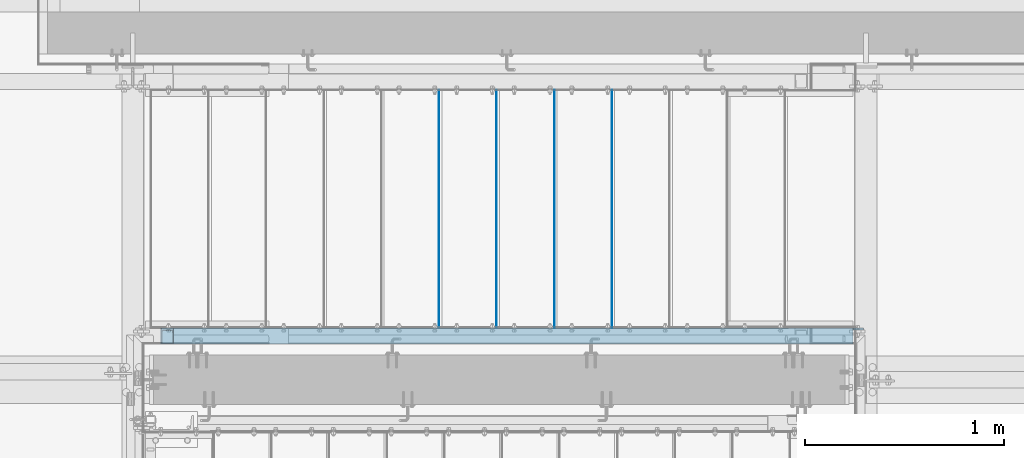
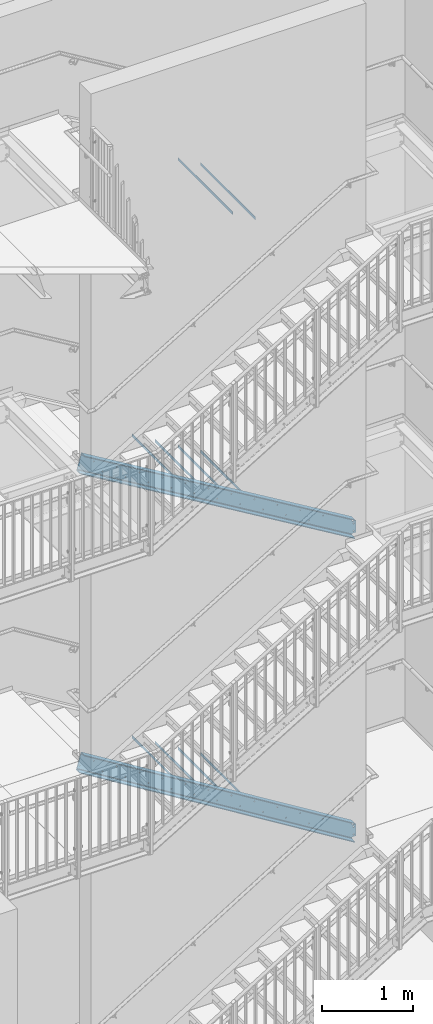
# One storey, part 36 of 410: 10 beams, 2 members, 50 openings.
"""IFC2X3 building model written with IfcOpenShell, lengths in millimetres."""

from ifc_helpers import new_model, entity, si_unit, converted_unit, point, frame, frame_2d, origin, origin_with_axes, origin_2d, origin_2d_with_axis, place, context, project, spatial, circle_curve, line_curve, trimmed, segment, composite_curve, rectangle, circle, u_section, outline, extrude, clip, halfspace, material, element, save


model = new_model("IFC2X3")

# Units and contexts
model_context = context("Model", 3, precision=1e-09, world=origin_with_axes())
ifc_project = project(units=[si_unit("LENGTHUNIT", "METRE", prefix="MILLI"), si_unit("AREAUNIT", "SQUARE_METRE"), si_unit("VOLUMEUNIT", "CUBIC_METRE"), converted_unit("PLANEANGLEUNIT", "DEGREE", entity("IfcPlaneAngleMeasure", 0.01745329), si_unit("PLANEANGLEUNIT", "RADIAN"), dimensions=[0, 0, 0, 0, 0, 0, 0])], contexts=[model_context])

# Site, building, storey
site_placement = place(None, origin_with_axes())
site = spatial("IfcSite", under=ifc_project, at=site_placement, Name="mKR Teilneubau & Sanierung BA1 - Ostfildern", CompositionType="ELEMENT")
building_placement = place(site_placement, origin_with_axes())
building = spatial("IfcBuilding", under=site, at=building_placement, Name="Struktur 1", CompositionType="ELEMENT")
storey_placement = place(building_placement, origin_with_axes())
storey = spatial("IfcBuildingStorey", under=building, at=storey_placement, Name="Default Storey", CompositionType="ELEMENT", Elevation=0.0)

# Beams
ifc_material = material(Name="S235JR")
for number, where, z_axis, x_axis in (
    (1, (311.5, 18439.999999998, 6470.0), (0.0, 1.0, 0.0), (-1.0, 0.0, 0.0)),
    (2, (601.5, 18439.999999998, 6295.0), (0.0, 1.0, 0.0), (-1.0, 0.0, 0.0)),
    (3, (601.5, 18439.999999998, 2454.782609), (0.0, 1.0, 0.0), (-1.0, 0.0, 0.0)),
    (4, (311.5, 18439.999999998, 2628.6956525), (0.0, 1.0, 0.0), (-1.0, 0.0, 0.0)),
    (5, (21.5, 18439.999999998, 2802.608696), (0.0, 1.0, 0.0), (-1.0, 0.0, 0.0)),
    (6, (-268.5, 18439.999999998, 2976.5217395), (0.0, 1.0, 0.0), (-1.0, 0.0, 0.0)),
    (7, (601.5, 18439.999999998, -1589.2), (0.0, 1.0, 0.0), (-1.0, 0.0, 0.0)),
    (8, (311.5, 18439.999999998, -1410.4), (0.0, 1.0, 0.0), (-1.0, 0.0, 0.0)),
    (9, (21.5, 18439.999999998, -1231.6), (0.0, 1.0, 0.0), (-1.0, 0.0, 0.0)),
    (10, (-268.5, 18439.999999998, -1052.8), (0.0, 1.0, 0.0), (-1.0, 0.0, 0.0)),
):
    element("IfcBeam", number, at=place(None, frame(where, z_axis=z_axis, x_axis=x_axis)), inside=storey, material=ifc_material, Name="-", ObjectType="-", context=model_context, shape_type="SweptSolid", body=[
        extrude(rectangle(XDim=3.0, YDim=40.0, at=origin_2d()), origin(), (0.0, 0.0, -1.0), 1200.0),
    ])

# Member, openings
member_1_placement = place(None, frame((1918.435682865, 17218.599999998, -2363.262627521), z_axis=(0.851214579, 0.0, -0.524817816), x_axis=(0.0, -1.0, 0.0)))
member_1 = element("IfcMember", 11, at=member_1_placement, inside=storey, material=ifc_material, Name="-", ObjectType="-", context=model_context, shape_type="Clipping", body=[
    clip(extrude(u_section(Depth=220.0, FlangeWidth=80.0, WebThickness=9.0, FlangeThickness=12.5, FilletRadius=12.5, EdgeRadius=6.0, FlangeSlope=4.574, at=frame_2d((18.6, 0.0))), origin(), (0.0, 0.0, -1.0), 4446.272996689), halfspace(frame((17218.599999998, -587.407461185, -4345.621808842), z_axis=(0.0, -0.272750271, 0.962084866), x_axis=(-1.0, 0.0, 0.0)), True)),
])
opening_1_placement = place(member_1_placement, frame((-121.5, -110.0, 0.0), z_axis=(1.0, 0.0, 0.0), x_axis=(0.0, -0.524817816, 0.851214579)))
element("IfcOpeningElement", 12, at=opening_1_placement, cuts=member_1, ObjectType="Opening", context=model_context, shape_type="SweptSolid", body=[
    extrude(outline(composite_curve([segment(trimmed(line_curve((82.052457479, -247.460801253), (0.0, 1.0), 396.500732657), [point((82.052457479, -247.460801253))], [point((82.052457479, 149.039931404))], True, "CARTESIAN"), True, "CONTINUOUS"), segment(trimmed(line_curve((82.052457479, 149.039931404), (-1.0, 0.0), 243.217631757), [point((82.052457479, 149.039931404))], [point((-161.165174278, 149.039931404))], True, "CARTESIAN"), True, "CONTINUOUS"), segment(trimmed(line_curve((-161.165174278, 149.039931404), (0.0, -1.0), 110.011907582), [point((-161.165174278, 149.039931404))], [point((-161.165174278, 39.028023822))], True, "CARTESIAN"), True, "CONTINUOUS"), segment(trimmed(circle_curve(frame_2d((-156.164174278, 39.028023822), x_axis=(1.0, 0.0)), 5.001), [point((-161.165174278, 39.028023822))], [point((-156.164174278, 34.027023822))], True, "CARTESIAN"), True, "CONTINUOUS"), segment(trimmed(line_curve((-156.164174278, 34.027023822), (1.0, 0.0), 47.047), [point((-156.164174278, 34.027023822))], [point((-109.117174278, 34.027023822))], True, "CARTESIAN"), True, "CONTINUOUS"), segment(trimmed(line_curve((-109.117174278, 34.027023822), (0.0, -1.0), 159.996000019), [point((-109.117174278, 34.027023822))], [point((-109.117174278, -125.968976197))], True, "CARTESIAN"), True, "CONTINUOUS"), segment(trimmed(line_curve((-109.117174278, -125.968976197), (-1.0, -1.9213e-05), 47.047096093), [point((-109.117174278, -125.968976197))], [point((-156.164270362, -125.969880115))], True, "CARTESIAN"), True, "CONTINUOUS"), segment(trimmed(circle_curve(frame_2d((-156.164174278, -130.970880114), x_axis=(1.0, 0.0)), 5.001), [point((-156.164270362, -125.969880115))], [point((-161.165174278, -130.970880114))], True, "CARTESIAN"), True, "CONTINUOUS"), segment(trimmed(line_curve((-161.165174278, -130.970880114), (0.0, -1.0), 116.489921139), [point((-161.165174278, -130.970880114))], [point((-161.165174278, -247.460801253))], True, "CARTESIAN"), True, "CONTINUOUS"), segment(trimmed(line_curve((-161.165174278, -247.460801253), (1.0, 0.0), 243.217631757), [point((-161.165174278, -247.460801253))], [point((82.052457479, -247.460801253))], True, "CARTESIAN"), True, "CONTINUOUS")], self_intersect=False)), origin(), (0.0, 0.0, 1.0), 280.2),
])
opening_2_placement = place(member_1_placement, frame((-11.9, 40.503799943, -61.238493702), z_axis=(1.0, 0.0, 0.0), x_axis=(0.0, 1.0, 0.0)))
element("IfcOpeningElement", 13, at=opening_2_placement, cuts=member_1, ObjectType="Opening", context=model_context, shape_type="SweptSolid", body=[
    extrude(circle(Radius=9.001, at=frame_2d((4.723885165, -7.661782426), x_axis=(1.0, 0.0))), origin(), (0.0, 0.0, -1.0), 10.0),
])
opening_3_placement = place(member_1_placement, frame((-11.9, -44.617657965, -113.720275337), z_axis=(1.0, 0.0, 0.0), x_axis=(0.0, 1.0, 0.0)))
element("IfcOpeningElement", 14, at=opening_3_placement, cuts=member_1, ObjectType="Opening", context=model_context, shape_type="SweptSolid", body=[
    extrude(circle(Radius=9.001, at=frame_2d((4.723885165, -7.661782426), x_axis=(1.0, 0.0))), origin(), (0.0, 0.0, -1.0), 10.0),
])
opening_4_placement = place(member_1_placement, frame((-21.9, -44.814574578, -2622.08287414), z_axis=(1.0, 0.0, 0.0), x_axis=(0.0, 0.524817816, -0.851214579)))
element("IfcOpeningElement", 15, at=opening_4_placement, cuts=member_1, ObjectType="Opening", context=model_context, shape_type="SweptSolid", body=[
    extrude(circle(Radius=7.001, at=origin_2d_with_axis()), origin(), (0.0, 0.0, 1.0), 10.0),
])
opening_5_placement = place(member_1_placement, frame((-21.9, 49.652632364, -2775.301498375), z_axis=(1.0, 0.0, 0.0), x_axis=(0.0, 0.524817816, -0.851214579)))
element("IfcOpeningElement", 16, at=opening_5_placement, cuts=member_1, ObjectType="Opening", context=model_context, shape_type="SweptSolid", body=[
    extrude(circle(Radius=7.001, at=origin_2d_with_axis()), origin(), (0.0, 0.0, 1.0), 10.0),
])
opening_6_placement = place(member_1_placement, frame((-21.9, -44.814574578, -2962.772527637), z_axis=(1.0, 0.0, 0.0), x_axis=(0.0, 0.524817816, -0.851214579)))
element("IfcOpeningElement", 17, at=opening_6_placement, cuts=member_1, ObjectType="Opening", context=model_context, shape_type="SweptSolid", body=[
    extrude(circle(Radius=7.001, at=origin_2d_with_axis()), origin(), (0.0, 0.0, 1.0), 10.0),
])
opening_7_placement = place(member_1_placement, frame((-21.9, 49.652632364, -3115.991151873), z_axis=(1.0, 0.0, 0.0), x_axis=(0.0, 0.524817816, -0.851214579)))
element("IfcOpeningElement", 18, at=opening_7_placement, cuts=member_1, ObjectType="Opening", context=model_context, shape_type="SweptSolid", body=[
    extrude(circle(Radius=7.001, at=origin_2d_with_axis()), origin(), (0.0, 0.0, 1.0), 10.0),
])
opening_8_placement = place(member_1_placement, frame((-21.9, -44.814574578, -1940.703567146), z_axis=(1.0, 0.0, 0.0), x_axis=(0.0, 0.524817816, -0.851214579)))
element("IfcOpeningElement", 19, at=opening_8_placement, cuts=member_1, ObjectType="Opening", context=model_context, shape_type="SweptSolid", body=[
    extrude(circle(Radius=7.001, at=origin_2d_with_axis()), origin(), (0.0, 0.0, 1.0), 10.0),
])
opening_9_placement = place(member_1_placement, frame((-21.9, 49.652632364, -2093.922191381), z_axis=(1.0, 0.0, 0.0), x_axis=(0.0, 0.524817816, -0.851214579)))
element("IfcOpeningElement", 20, at=opening_9_placement, cuts=member_1, ObjectType="Opening", context=model_context, shape_type="SweptSolid", body=[
    extrude(circle(Radius=7.001, at=origin_2d_with_axis()), origin(), (0.0, 0.0, 1.0), 10.0),
])
opening_10_placement = place(member_1_placement, frame((-21.9, 49.652632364, -1753.232537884), z_axis=(1.0, 0.0, 0.0), x_axis=(0.0, 0.524817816, -0.851214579)))
element("IfcOpeningElement", 21, at=opening_10_placement, cuts=member_1, ObjectType="Opening", context=model_context, shape_type="SweptSolid", body=[
    extrude(circle(Radius=7.001, at=origin_2d_with_axis()), origin(), (0.0, 0.0, 1.0), 10.0),
])
opening_11_placement = place(member_1_placement, frame((-21.9, -44.814574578, -1600.013913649), z_axis=(1.0, 0.0, 0.0), x_axis=(0.0, 0.524817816, -0.851214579)))
element("IfcOpeningElement", 22, at=opening_11_placement, cuts=member_1, ObjectType="Opening", context=model_context, shape_type="SweptSolid", body=[
    extrude(circle(Radius=7.001, at=origin_2d_with_axis()), origin(), (0.0, 0.0, 1.0), 10.0),
])
opening_12_placement = place(member_1_placement, frame((-21.9, 49.652632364, -2434.611844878), z_axis=(1.0, 0.0, 0.0), x_axis=(0.0, 0.524817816, -0.851214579)))
element("IfcOpeningElement", 23, at=opening_12_placement, cuts=member_1, ObjectType="Opening", context=model_context, shape_type="SweptSolid", body=[
    extrude(circle(Radius=7.001, at=origin_2d_with_axis()), origin(), (0.0, 0.0, 1.0), 10.0),
])
opening_13_placement = place(member_1_placement, frame((-21.9, -44.814574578, -2281.393220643), z_axis=(1.0, 0.0, 0.0), x_axis=(0.0, 0.524817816, -0.851214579)))
element("IfcOpeningElement", 24, at=opening_13_placement, cuts=member_1, ObjectType="Opening", context=model_context, shape_type="SweptSolid", body=[
    extrude(circle(Radius=7.001, at=origin_2d_with_axis()), origin(), (0.0, 0.0, 1.0), 10.0),
])
opening_14_placement = place(member_1_placement, frame((-21.9, -44.814574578, -1259.324260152), z_axis=(1.0, 0.0, 0.0), x_axis=(0.0, 0.524817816, -0.851214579)))
element("IfcOpeningElement", 25, at=opening_14_placement, cuts=member_1, ObjectType="Opening", context=model_context, shape_type="SweptSolid", body=[
    extrude(circle(Radius=7.001, at=origin_2d_with_axis()), origin(), (0.0, 0.0, 1.0), 10.0),
])
opening_15_placement = place(member_1_placement, frame((-21.9, -44.814574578, -918.634606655), z_axis=(1.0, 0.0, 0.0), x_axis=(0.0, 0.524817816, -0.851214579)))
element("IfcOpeningElement", 26, at=opening_15_placement, cuts=member_1, ObjectType="Opening", context=model_context, shape_type="SweptSolid", body=[
    extrude(circle(Radius=7.001, at=origin_2d_with_axis()), origin(), (0.0, 0.0, 1.0), 10.0),
])
opening_16_placement = place(member_1_placement, frame((-21.9, 49.652632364, -1412.542884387), z_axis=(1.0, 0.0, 0.0), x_axis=(0.0, 0.524817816, -0.851214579)))
element("IfcOpeningElement", 27, at=opening_16_placement, cuts=member_1, ObjectType="Opening", context=model_context, shape_type="SweptSolid", body=[
    extrude(circle(Radius=7.001, at=origin_2d_with_axis()), origin(), (0.0, 0.0, 1.0), 10.0),
])
opening_17_placement = place(member_1_placement, frame((-21.9, 49.652632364, -1071.85323089), z_axis=(1.0, 0.0, 0.0), x_axis=(0.0, 0.524817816, -0.851214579)))
element("IfcOpeningElement", 28, at=opening_17_placement, cuts=member_1, ObjectType="Opening", context=model_context, shape_type="SweptSolid", body=[
    extrude(circle(Radius=7.001, at=origin_2d_with_axis()), origin(), (0.0, 0.0, 1.0), 10.0),
])
opening_18_placement = place(member_1_placement, frame((-21.9, 49.652632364, -3797.370458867), z_axis=(1.0, 0.0, 0.0), x_axis=(0.0, 0.524817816, -0.851214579)))
element("IfcOpeningElement", 29, at=opening_18_placement, cuts=member_1, ObjectType="Opening", context=model_context, shape_type="SweptSolid", body=[
    extrude(circle(Radius=7.001, at=origin_2d_with_axis()), origin(), (0.0, 0.0, 1.0), 10.0),
])
opening_19_placement = place(member_1_placement, frame((-21.9, 49.652632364, -3456.68080537), z_axis=(1.0, 0.0, 0.0), x_axis=(0.0, 0.524817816, -0.851214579)))
element("IfcOpeningElement", 30, at=opening_19_placement, cuts=member_1, ObjectType="Opening", context=model_context, shape_type="SweptSolid", body=[
    extrude(circle(Radius=7.001, at=origin_2d_with_axis()), origin(), (0.0, 0.0, 1.0), 10.0),
])
opening_20_placement = place(member_1_placement, frame((-21.9, -44.814574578, -3644.151834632), z_axis=(1.0, 0.0, 0.0), x_axis=(0.0, 0.524817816, -0.851214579)))
element("IfcOpeningElement", 31, at=opening_20_placement, cuts=member_1, ObjectType="Opening", context=model_context, shape_type="SweptSolid", body=[
    extrude(circle(Radius=7.001, at=origin_2d_with_axis()), origin(), (0.0, 0.0, 1.0), 10.0),
])
opening_21_placement = place(member_1_placement, frame((-21.9, -44.814574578, -3303.462181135), z_axis=(1.0, 0.0, 0.0), x_axis=(0.0, 0.524817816, -0.851214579)))
element("IfcOpeningElement", 32, at=opening_21_placement, cuts=member_1, ObjectType="Opening", context=model_context, shape_type="SweptSolid", body=[
    extrude(circle(Radius=7.001, at=origin_2d_with_axis()), origin(), (0.0, 0.0, 1.0), 10.0),
])
opening_22_placement = place(member_1_placement, frame((-21.9, 49.652632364, -4138.060112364), z_axis=(1.0, 0.0, 0.0), x_axis=(0.0, 0.524817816, -0.851214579)))
element("IfcOpeningElement", 33, at=opening_22_placement, cuts=member_1, ObjectType="Opening", context=model_context, shape_type="SweptSolid", body=[
    extrude(circle(Radius=7.001, at=origin_2d_with_axis()), origin(), (0.0, 0.0, 1.0), 10.0),
])
opening_23_placement = place(member_1_placement, frame((-21.9, -44.814574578, -3984.841488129), z_axis=(1.0, 0.0, 0.0), x_axis=(0.0, 0.524817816, -0.851214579)))
element("IfcOpeningElement", 34, at=opening_23_placement, cuts=member_1, ObjectType="Opening", context=model_context, shape_type="SweptSolid", body=[
    extrude(circle(Radius=7.001, at=origin_2d_with_axis()), origin(), (0.0, 0.0, 1.0), 10.0),
])
opening_24_placement = place(member_1_placement, frame((-21.9, -44.814574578, -577.944953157), z_axis=(1.0, 0.0, 0.0), x_axis=(0.0, 0.524817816, -0.851214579)))
element("IfcOpeningElement", 35, at=opening_24_placement, cuts=member_1, ObjectType="Opening", context=model_context, shape_type="SweptSolid", body=[
    extrude(circle(Radius=7.001, at=origin_2d_with_axis()), origin(), (0.0, 0.0, 1.0), 10.0),
])
opening_25_placement = place(member_1_placement, frame((-21.9, 49.652632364, -731.163577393), z_axis=(1.0, 0.0, 0.0), x_axis=(0.0, 0.524817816, -0.851214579)))
element("IfcOpeningElement", 36, at=opening_25_placement, cuts=member_1, ObjectType="Opening", context=model_context, shape_type="SweptSolid", body=[
    extrude(circle(Radius=7.001, at=origin_2d_with_axis()), origin(), (0.0, 0.0, 1.0), 10.0),
])

member_2_placement = place(None, frame((1919.154001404, 17218.599999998, 1698.330327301), z_axis=(0.857606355, 0.0, -0.51430666), x_axis=(0.0, -1.0, 0.0)))
member_2 = element("IfcMember", 37, at=member_2_placement, inside=storey, material=ifc_material, Name="-", ObjectType="-", context=model_context, shape_type="Clipping", body=[
    clip(extrude(u_section(Depth=220.0, FlangeWidth=80.0, WebThickness=9.0, FlangeThickness=12.5, FilletRadius=12.5, EdgeRadius=6.0, FlangeSlope=4.574, at=frame_2d((18.6, 0.0))), origin(), (0.0, 0.0, -1.0), 4410.788036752), halfspace(frame((17218.599999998, 3136.766015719, -3276.281884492), z_axis=(0.0, -0.266827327, 0.963744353), x_axis=(-1.0, 0.0, 0.0)), True)),
])
opening_26_placement = place(member_2_placement, frame((-121.5, -110.0, 0.0), z_axis=(1.0, 0.0, 0.0), x_axis=(0.0, -0.51430666, 0.857606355)))
element("IfcOpeningElement", 38, at=opening_26_placement, cuts=member_2, ObjectType="Opening", context=model_context, shape_type="SweptSolid", body=[
    extrude(outline(composite_curve([segment(trimmed(line_curve((82.490366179, -251.113372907), (0.0, 1.0), 396.500732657), [point((82.490366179, -251.113372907))], [point((82.490366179, 145.38735975))], True, "CARTESIAN"), True, "CONTINUOUS"), segment(trimmed(line_curve((82.490366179, 145.38735975), (-1.0, 0.0), 243.217631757), [point((82.490366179, 145.38735975))], [point((-160.727265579, 145.38735975))], True, "CARTESIAN"), True, "CONTINUOUS"), segment(trimmed(line_curve((-160.727265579, 145.38735975), (0.0, -1.0), 110.011907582), [point((-160.727265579, 145.38735975))], [point((-160.727265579, 35.375452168))], True, "CARTESIAN"), True, "CONTINUOUS"), segment(trimmed(circle_curve(frame_2d((-155.726265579, 35.375452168), x_axis=(1.0, 0.0)), 5.001), [point((-160.727265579, 35.375452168))], [point((-155.726265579, 30.374452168))], True, "CARTESIAN"), True, "CONTINUOUS"), segment(trimmed(line_curve((-155.726265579, 30.374452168), (1.0, 0.0), 47.047), [point((-155.726265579, 30.374452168))], [point((-108.679265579, 30.374452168))], True, "CARTESIAN"), True, "CONTINUOUS"), segment(trimmed(line_curve((-108.679265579, 30.374452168), (0.0, -1.0), 159.996000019), [point((-108.679265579, 30.374452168))], [point((-108.679265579, -129.621547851))], True, "CARTESIAN"), True, "CONTINUOUS"), segment(trimmed(line_curve((-108.679265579, -129.621547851), (-1.0, -1.9213e-05), 47.047096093), [point((-108.679265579, -129.621547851))], [point((-155.726361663, -129.622451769))], True, "CARTESIAN"), True, "CONTINUOUS"), segment(trimmed(circle_curve(frame_2d((-155.726265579, -134.623451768), x_axis=(1.0, 0.0)), 5.001), [point((-155.726361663, -129.622451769))], [point((-160.727265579, -134.623451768))], True, "CARTESIAN"), True, "CONTINUOUS"), segment(trimmed(line_curve((-160.727265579, -134.623451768), (0.0, -1.0), 116.489921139), [point((-160.727265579, -134.623451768))], [point((-160.727265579, -251.113372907))], True, "CARTESIAN"), True, "CONTINUOUS"), segment(trimmed(line_curve((-160.727265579, -251.113372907), (1.0, 0.0), 243.217631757), [point((-160.727265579, -251.113372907))], [point((82.490366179, -251.113372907))], True, "CARTESIAN"), True, "CONTINUOUS")], self_intersect=False)), origin(), (0.0, 0.0, 1.0), 280.2),
])
opening_27_placement = place(member_2_placement, frame((-11.9, 42.646318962, -60.831227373), z_axis=(1.0, 0.0, 0.0), x_axis=(0.0, 1.0, 0.0)))
element("IfcOpeningElement", 39, at=opening_27_placement, cuts=member_2, ObjectType="Opening", context=model_context, shape_type="SweptSolid", body=[
    extrude(circle(Radius=9.001, at=frame_2d((4.629274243, -7.7193148), x_axis=(1.0, 0.0))), origin(), (0.0, 0.0, -1.0), 10.0),
])
opening_28_placement = place(member_2_placement, frame((-11.9, -43.114316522, -112.261893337), z_axis=(1.0, 0.0, 0.0), x_axis=(0.0, 1.0, 0.0)))
element("IfcOpeningElement", 40, at=opening_28_placement, cuts=member_2, ObjectType="Opening", context=model_context, shape_type="SweptSolid", body=[
    extrude(circle(Radius=9.001, at=frame_2d((4.629274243, -7.7193148), x_axis=(1.0, 0.0))), origin(), (0.0, 0.0, -1.0), 10.0),
])
opening_29_placement = place(member_2_placement, frame((-21.9, 47.744281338, -3433.508605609), z_axis=(1.0, 0.0, 0.0), x_axis=(0.0, 0.51430666, -0.857606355)))
element("IfcOpeningElement", 41, at=opening_29_placement, cuts=member_2, ObjectType="Opening", context=model_context, shape_type="SweptSolid", body=[
    extrude(circle(Radius=7.001, at=origin_2d_with_axis()), origin(), (0.0, 0.0, 1.0), 10.0),
])
opening_30_placement = place(member_2_placement, frame((-21.9, -44.830917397, -3617.28994111), z_axis=(1.0, 0.0, 0.0), x_axis=(0.0, 0.51430666, -0.857606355)))
element("IfcOpeningElement", 42, at=opening_30_placement, cuts=member_2, ObjectType="Opening", context=model_context, shape_type="SweptSolid", body=[
    extrude(circle(Radius=7.001, at=origin_2d_with_axis()), origin(), (0.0, 0.0, 1.0), 10.0),
])
opening_31_placement = place(member_2_placement, frame((-21.9, 47.744281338, -3771.659084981), z_axis=(1.0, 0.0, 0.0), x_axis=(0.0, 0.51430666, -0.857606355)))
element("IfcOpeningElement", 43, at=opening_31_placement, cuts=member_2, ObjectType="Opening", context=model_context, shape_type="SweptSolid", body=[
    extrude(circle(Radius=7.001, at=origin_2d_with_axis()), origin(), (0.0, 0.0, 1.0), 10.0),
])
opening_32_placement = place(member_2_placement, frame((-21.9, -44.830917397, -3955.440420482), z_axis=(1.0, 0.0, 0.0), x_axis=(0.0, 0.51430666, -0.857606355)))
element("IfcOpeningElement", 44, at=opening_32_placement, cuts=member_2, ObjectType="Opening", context=model_context, shape_type="SweptSolid", body=[
    extrude(circle(Radius=7.001, at=origin_2d_with_axis()), origin(), (0.0, 0.0, 1.0), 10.0),
])
opening_33_placement = place(member_2_placement, frame((-21.9, -44.830917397, -2602.838502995), z_axis=(1.0, 0.0, 0.0), x_axis=(0.0, 0.51430666, -0.857606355)))
element("IfcOpeningElement", 45, at=opening_33_placement, cuts=member_2, ObjectType="Opening", context=model_context, shape_type="SweptSolid", body=[
    extrude(circle(Radius=7.001, at=origin_2d_with_axis()), origin(), (0.0, 0.0, 1.0), 10.0),
])
opening_34_placement = place(member_2_placement, frame((-21.9, 47.744281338, -2757.207646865), z_axis=(1.0, 0.0, 0.0), x_axis=(0.0, 0.51430666, -0.857606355)))
element("IfcOpeningElement", 46, at=opening_34_placement, cuts=member_2, ObjectType="Opening", context=model_context, shape_type="SweptSolid", body=[
    extrude(circle(Radius=7.001, at=origin_2d_with_axis()), origin(), (0.0, 0.0, 1.0), 10.0),
])
opening_35_placement = place(member_2_placement, frame((-21.9, -44.830917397, -2940.988982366), z_axis=(1.0, 0.0, 0.0), x_axis=(0.0, 0.51430666, -0.857606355)))
element("IfcOpeningElement", 47, at=opening_35_placement, cuts=member_2, ObjectType="Opening", context=model_context, shape_type="SweptSolid", body=[
    extrude(circle(Radius=7.001, at=origin_2d_with_axis()), origin(), (0.0, 0.0, 1.0), 10.0),
])
opening_36_placement = place(member_2_placement, frame((-21.9, 47.744281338, -3095.358126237), z_axis=(1.0, 0.0, 0.0), x_axis=(0.0, 0.51430666, -0.857606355)))
element("IfcOpeningElement", 48, at=opening_36_placement, cuts=member_2, ObjectType="Opening", context=model_context, shape_type="SweptSolid", body=[
    extrude(circle(Radius=7.001, at=origin_2d_with_axis()), origin(), (0.0, 0.0, 1.0), 10.0),
])
opening_37_placement = place(member_2_placement, frame((-21.9, -44.830917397, -1250.236585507), z_axis=(1.0, 0.0, 0.0), x_axis=(0.0, 0.51430666, -0.857606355)))
element("IfcOpeningElement", 49, at=opening_37_placement, cuts=member_2, ObjectType="Opening", context=model_context, shape_type="SweptSolid", body=[
    extrude(circle(Radius=7.001, at=origin_2d_with_axis()), origin(), (0.0, 0.0, 1.0), 10.0),
])
opening_38_placement = place(member_2_placement, frame((-21.9, -44.830917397, -2264.688023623), z_axis=(1.0, 0.0, 0.0), x_axis=(0.0, 0.51430666, -0.857606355)))
element("IfcOpeningElement", 50, at=opening_38_placement, cuts=member_2, ObjectType="Opening", context=model_context, shape_type="SweptSolid", body=[
    extrude(circle(Radius=7.001, at=origin_2d_with_axis()), origin(), (0.0, 0.0, 1.0), 10.0),
])
opening_39_placement = place(member_2_placement, frame((-21.9, 47.744281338, -728.304770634), z_axis=(1.0, 0.0, 0.0), x_axis=(0.0, 0.51430666, -0.857606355)))
element("IfcOpeningElement", 51, at=opening_39_placement, cuts=member_2, ObjectType="Opening", context=model_context, shape_type="SweptSolid", body=[
    extrude(circle(Radius=7.001, at=origin_2d_with_axis()), origin(), (0.0, 0.0, 1.0), 10.0),
])
opening_40_placement = place(member_2_placement, frame((-21.9, -44.830917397, -3279.139461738), z_axis=(1.0, 0.0, 0.0), x_axis=(0.0, 0.51430666, -0.857606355)))
element("IfcOpeningElement", 52, at=opening_40_placement, cuts=member_2, ObjectType="Opening", context=model_context, shape_type="SweptSolid", body=[
    extrude(circle(Radius=7.001, at=origin_2d_with_axis()), origin(), (0.0, 0.0, 1.0), 10.0),
])
opening_41_placement = place(member_2_placement, frame((-21.9, -44.830917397, -573.935626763), z_axis=(1.0, 0.0, 0.0), x_axis=(0.0, 0.51430666, -0.857606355)))
element("IfcOpeningElement", 53, at=opening_41_placement, cuts=member_2, ObjectType="Opening", context=model_context, shape_type="SweptSolid", body=[
    extrude(circle(Radius=7.001, at=origin_2d_with_axis()), origin(), (0.0, 0.0, 1.0), 10.0),
])
opening_42_placement = place(member_2_placement, frame((-21.9, -44.830917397, -1926.537544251), z_axis=(1.0, 0.0, 0.0), x_axis=(0.0, 0.51430666, -0.857606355)))
element("IfcOpeningElement", 54, at=opening_42_placement, cuts=member_2, ObjectType="Opening", context=model_context, shape_type="SweptSolid", body=[
    extrude(circle(Radius=7.001, at=origin_2d_with_axis()), origin(), (0.0, 0.0, 1.0), 10.0),
])
opening_43_placement = place(member_2_placement, frame((-21.9, 47.744281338, -2419.057167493), z_axis=(1.0, 0.0, 0.0), x_axis=(0.0, 0.51430666, -0.857606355)))
element("IfcOpeningElement", 55, at=opening_43_placement, cuts=member_2, ObjectType="Opening", context=model_context, shape_type="SweptSolid", body=[
    extrude(circle(Radius=7.001, at=origin_2d_with_axis()), origin(), (0.0, 0.0, 1.0), 10.0),
])
opening_44_placement = place(member_2_placement, frame((-21.9, 47.744281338, -2080.906688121), z_axis=(1.0, 0.0, 0.0), x_axis=(0.0, 0.51430666, -0.857606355)))
element("IfcOpeningElement", 56, at=opening_44_placement, cuts=member_2, ObjectType="Opening", context=model_context, shape_type="SweptSolid", body=[
    extrude(circle(Radius=7.001, at=origin_2d_with_axis()), origin(), (0.0, 0.0, 1.0), 10.0),
])
opening_45_placement = place(member_2_placement, frame((-21.9, 47.744281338, -1404.605729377), z_axis=(1.0, 0.0, 0.0), x_axis=(0.0, 0.51430666, -0.857606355)))
element("IfcOpeningElement", 57, at=opening_45_placement, cuts=member_2, ObjectType="Opening", context=model_context, shape_type="SweptSolid", body=[
    extrude(circle(Radius=7.001, at=origin_2d_with_axis()), origin(), (0.0, 0.0, 1.0), 10.0),
])
opening_46_placement = place(member_2_placement, frame((-21.9, 47.744281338, -1742.756208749), z_axis=(1.0, 0.0, 0.0), x_axis=(0.0, 0.51430666, -0.857606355)))
element("IfcOpeningElement", 58, at=opening_46_placement, cuts=member_2, ObjectType="Opening", context=model_context, shape_type="SweptSolid", body=[
    extrude(circle(Radius=7.001, at=origin_2d_with_axis()), origin(), (0.0, 0.0, 1.0), 10.0),
])
opening_47_placement = place(member_2_placement, frame((-21.9, -44.830917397, -912.086106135), z_axis=(1.0, 0.0, 0.0), x_axis=(0.0, 0.51430666, -0.857606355)))
element("IfcOpeningElement", 59, at=opening_47_placement, cuts=member_2, ObjectType="Opening", context=model_context, shape_type="SweptSolid", body=[
    extrude(circle(Radius=7.001, at=origin_2d_with_axis()), origin(), (0.0, 0.0, 1.0), 10.0),
])
opening_48_placement = place(member_2_placement, frame((-21.9, 47.744281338, -1066.455250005), z_axis=(1.0, 0.0, 0.0), x_axis=(0.0, 0.51430666, -0.857606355)))
element("IfcOpeningElement", 60, at=opening_48_placement, cuts=member_2, ObjectType="Opening", context=model_context, shape_type="SweptSolid", body=[
    extrude(circle(Radius=7.001, at=origin_2d_with_axis()), origin(), (0.0, 0.0, 1.0), 10.0),
])
opening_49_placement = place(member_2_placement, frame((-21.9, -44.830917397, -1588.387064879), z_axis=(1.0, 0.0, 0.0), x_axis=(0.0, 0.51430666, -0.857606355)))
element("IfcOpeningElement", 61, at=opening_49_placement, cuts=member_2, ObjectType="Opening", context=model_context, shape_type="SweptSolid", body=[
    extrude(circle(Radius=7.001, at=origin_2d_with_axis()), origin(), (0.0, 0.0, 1.0), 10.0),
])
opening_50_placement = place(member_2_placement, frame((-21.9, 47.744281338, -4109.809564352), z_axis=(1.0, 0.0, 0.0), x_axis=(0.0, 0.51430666, -0.857606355)))
element("IfcOpeningElement", 62, at=opening_50_placement, cuts=member_2, ObjectType="Opening", context=model_context, shape_type="SweptSolid", body=[
    extrude(circle(Radius=7.001, at=origin_2d_with_axis()), origin(), (0.0, 0.0, 1.0), 10.0),
])

save(model, "model.ifc")
